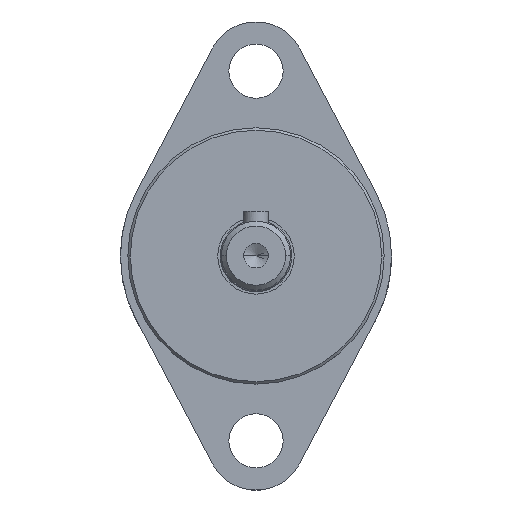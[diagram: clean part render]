
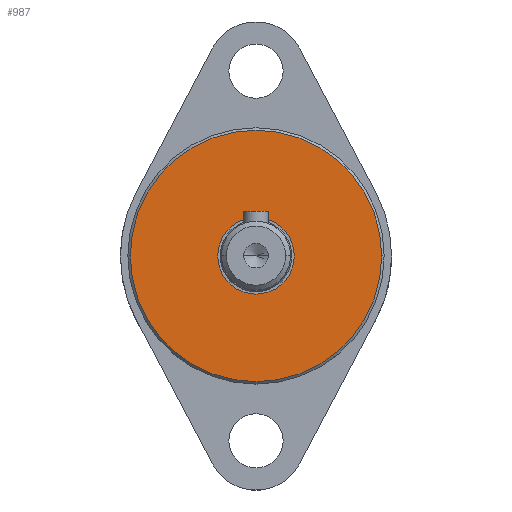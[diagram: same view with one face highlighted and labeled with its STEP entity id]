
A CAD part, top view. The second image highlights one B-rep face of the part: STEP entity #987.
In plain terms, the highlighted planar face has unit normal (0, 0, 1).
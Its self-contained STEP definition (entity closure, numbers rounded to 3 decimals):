
#55 = ORIENTED_EDGE ( 'NONE', *, *, #520, .T. ) ;
#57 = DIRECTION ( 'NONE',  ( 1., 0., 0. ) ) ;
#75 = EDGE_LOOP ( 'NONE', ( #274, #55 ) ) ;
#97 = VERTEX_POINT ( 'NONE', #1535 ) ;
#116 = EDGE_CURVE ( 'NONE', #842, #97, #1427, .T. ) ;
#186 = DIRECTION ( 'NONE',  ( 0., 0., 1. ) ) ;
#235 = VERTEX_POINT ( 'NONE', #1163 ) ;
#262 = CIRCLE ( 'NONE', #602, 7.75 ) ;
#274 = ORIENTED_EDGE ( 'NONE', *, *, #116, .T. ) ;
#354 = CARTESIAN_POINT ( 'NONE',  ( -25.5, 0., -31.5 ) ) ;
#436 = CARTESIAN_POINT ( 'NONE',  ( 0., 0., -31.5 ) ) ;
#484 = DIRECTION ( 'NONE',  ( 1., 0., 0. ) ) ;
#497 = VERTEX_POINT ( 'NONE', #1528 ) ;
#498 = EDGE_CURVE ( 'NONE', #497, #235, #262, .T. ) ;
#509 = FACE_BOUND ( 'NONE', #1051, .T. ) ;
#520 = EDGE_CURVE ( 'NONE', #97, #842, #1295, .T. ) ;
#548 = DIRECTION ( 'NONE',  ( 0., 0., -1. ) ) ;
#602 = AXIS2_PLACEMENT_3D ( 'NONE', #877, #994, #1134 ) ;
#638 = CIRCLE ( 'NONE', #677, 7.75 ) ;
#674 = PLANE ( 'NONE',  #1180 ) ;
#677 = AXIS2_PLACEMENT_3D ( 'NONE', #1283, #1431, #484 ) ;
#692 = EDGE_CURVE ( 'NONE', #235, #497, #638, .T. ) ;
#842 = VERTEX_POINT ( 'NONE', #354 ) ;
#862 = CARTESIAN_POINT ( 'NONE',  ( 0., 0., -31.5 ) ) ;
#877 = CARTESIAN_POINT ( 'NONE',  ( 0., 0., -31.5 ) ) ;
#879 = DIRECTION ( 'NONE',  ( 0., 0., 1. ) ) ;
#959 = FACE_OUTER_BOUND ( 'NONE', #75, .T. ) ;
#964 = DIRECTION ( 'NONE',  ( -1., 0., 0. ) ) ;
#987 = ADVANCED_FACE ( 'NONE', ( #509, #959 ), #674, .F. ) ;
#994 = DIRECTION ( 'NONE',  ( 0., 0., 1. ) ) ;
#1051 = EDGE_LOOP ( 'NONE', ( #1136, #1497 ) ) ;
#1098 = CARTESIAN_POINT ( 'NONE',  ( 0., 7.75, -31.5 ) ) ;
#1134 = DIRECTION ( 'NONE',  ( 1., 0., 0. ) ) ;
#1136 = ORIENTED_EDGE ( 'NONE', *, *, #498, .F. ) ;
#1163 = CARTESIAN_POINT ( 'NONE',  ( -7.75, 0., -31.5 ) ) ;
#1180 = AXIS2_PLACEMENT_3D ( 'NONE', #1098, #548, #964 ) ;
#1283 = CARTESIAN_POINT ( 'NONE',  ( 0., 0., -31.5 ) ) ;
#1295 = CIRCLE ( 'NONE', #1483, 25.5 ) ;
#1427 = CIRCLE ( 'NONE', #1678, 25.5 ) ;
#1431 = DIRECTION ( 'NONE',  ( 0., 0., 1. ) ) ;
#1483 = AXIS2_PLACEMENT_3D ( 'NONE', #862, #186, #57 ) ;
#1497 = ORIENTED_EDGE ( 'NONE', *, *, #692, .F. ) ;
#1525 = DIRECTION ( 'NONE',  ( 1., 0., 0. ) ) ;
#1528 = CARTESIAN_POINT ( 'NONE',  ( 7.75, 0., -31.5 ) ) ;
#1535 = CARTESIAN_POINT ( 'NONE',  ( 25.5, 0., -31.5 ) ) ;
#1678 = AXIS2_PLACEMENT_3D ( 'NONE', #436, #879, #1525 ) ;
